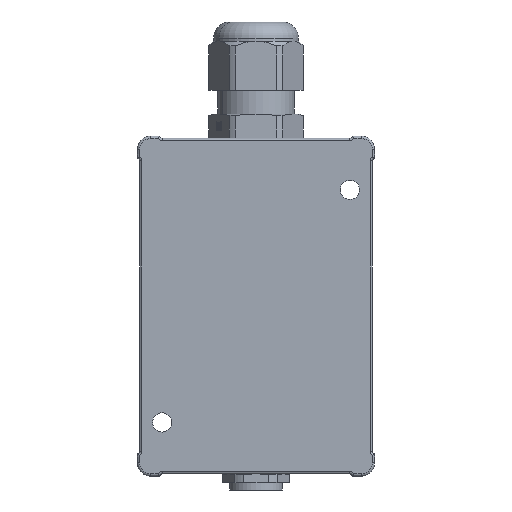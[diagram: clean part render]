
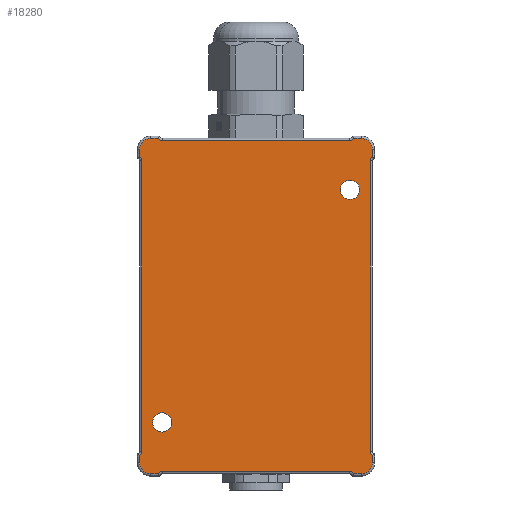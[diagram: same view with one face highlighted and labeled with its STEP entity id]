
A CAD part, front view. The second image highlights one B-rep face of the part: STEP entity #18280.
In plain terms, the highlighted planar face has unit normal (0, -1, 0).
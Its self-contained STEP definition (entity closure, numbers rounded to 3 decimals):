
#724=CARTESIAN_POINT('',(-21.866,-3.,-37.5));
#768=CARTESIAN_POINT('',(23.5,-3.,-35.));
#769=DIRECTION('',(0.,1.,0.));
#770=DIRECTION('',(1.,0.,0.));
#771=AXIS2_PLACEMENT_3D('',#768,#769,#770);
#776=DIRECTION('',(1.,0.,0.));
#777=VECTOR('',#776,1.634);
#778=CARTESIAN_POINT('',(21.866,-3.,-37.5));
#779=LINE('',#778,#777);
#783=CARTESIAN_POINT('',(21.,-3.,-38.));
#784=DIRECTION('',(0.,-1.,0.));
#785=DIRECTION('',(0.866,0.,0.5));
#786=AXIS2_PLACEMENT_3D('',#783,#784,#785);
#791=DIRECTION('',(-1.,0.,0.));
#792=VECTOR('',#791,42.);
#793=CARTESIAN_POINT('',(21.,-3.,-37.));
#794=LINE('',#793,#792);
#798=CARTESIAN_POINT('',(-21.,-3.,-38.));
#799=DIRECTION('',(0.,-1.,0.));
#800=DIRECTION('',(0.,0.,1.));
#801=AXIS2_PLACEMENT_3D('',#798,#799,#800);
#806=DIRECTION('',(1.,0.,0.));
#807=VECTOR('',#806,1.634);
#808=CARTESIAN_POINT('',(-23.5,-3.,-37.5));
#809=LINE('',#808,#807);
#813=CARTESIAN_POINT('',(-23.5,-3.,-35.));
#814=DIRECTION('',(0.,1.,0.));
#815=DIRECTION('',(0.,0.,-1.));
#816=AXIS2_PLACEMENT_3D('',#813,#814,#815);
#821=DIRECTION('',(0.,0.,-1.));
#822=VECTOR('',#821,1.634);
#823=CARTESIAN_POINT('',(-26.,-3.,-33.366));
#824=LINE('',#823,#822);
#828=CARTESIAN_POINT('',(-26.5,-3.,-32.5));
#829=DIRECTION('',(0.,-1.,0.));
#830=DIRECTION('',(0.5,0.,-0.866));
#831=AXIS2_PLACEMENT_3D('',#828,#829,#830);
#836=DIRECTION('',(0.,0.,1.));
#837=VECTOR('',#836,65.);
#838=CARTESIAN_POINT('',(-25.5,-3.,-32.5));
#839=LINE('',#838,#837);
#843=CARTESIAN_POINT('',(-26.5,-3.,32.5));
#844=DIRECTION('',(0.,-1.,0.));
#845=DIRECTION('',(1.,0.,0.));
#846=AXIS2_PLACEMENT_3D('',#843,#844,#845);
#851=DIRECTION('',(0.,0.,-1.));
#852=VECTOR('',#851,1.634);
#853=CARTESIAN_POINT('',(-26.,-3.,35.));
#854=LINE('',#853,#852);
#858=CARTESIAN_POINT('',(-23.5,-3.,35.));
#859=DIRECTION('',(0.,1.,0.));
#860=DIRECTION('',(-1.,0.,0.));
#861=AXIS2_PLACEMENT_3D('',#858,#859,#860);
#866=DIRECTION('',(-1.,0.,0.));
#867=VECTOR('',#866,1.634);
#868=CARTESIAN_POINT('',(-21.866,-3.,37.5));
#869=LINE('',#868,#867);
#873=CARTESIAN_POINT('',(-21.,-3.,38.));
#874=DIRECTION('',(0.,-1.,0.));
#875=DIRECTION('',(-0.866,0.,-0.5));
#876=AXIS2_PLACEMENT_3D('',#873,#874,#875);
#881=DIRECTION('',(1.,0.,0.));
#882=VECTOR('',#881,42.);
#883=CARTESIAN_POINT('',(-21.,-3.,37.));
#884=LINE('',#883,#882);
#888=CARTESIAN_POINT('',(21.,-3.,38.));
#889=DIRECTION('',(0.,-1.,0.));
#890=DIRECTION('',(0.,0.,-1.));
#891=AXIS2_PLACEMENT_3D('',#888,#889,#890);
#896=DIRECTION('',(-1.,0.,0.));
#897=VECTOR('',#896,1.634);
#898=CARTESIAN_POINT('',(23.5,-3.,37.5));
#899=LINE('',#898,#897);
#903=CARTESIAN_POINT('',(23.5,-3.,35.));
#904=DIRECTION('',(0.,1.,0.));
#905=DIRECTION('',(0.,0.,1.));
#906=AXIS2_PLACEMENT_3D('',#903,#904,#905);
#911=DIRECTION('',(0.,0.,1.));
#912=VECTOR('',#911,1.634);
#913=CARTESIAN_POINT('',(26.,-3.,33.366));
#914=LINE('',#913,#912);
#918=CARTESIAN_POINT('',(26.5,-3.,32.5));
#919=DIRECTION('',(0.,-1.,0.));
#920=DIRECTION('',(-0.5,0.,0.866));
#921=AXIS2_PLACEMENT_3D('',#918,#919,#920);
#926=DIRECTION('',(0.,0.,-1.));
#927=VECTOR('',#926,65.);
#928=CARTESIAN_POINT('',(25.5,-3.,32.5));
#929=LINE('',#928,#927);
#933=CARTESIAN_POINT('',(26.5,-3.,-32.5));
#934=DIRECTION('',(0.,-1.,0.));
#935=DIRECTION('',(-1.,0.,0.));
#936=AXIS2_PLACEMENT_3D('',#933,#934,#935);
#941=DIRECTION('',(0.,0.,1.));
#942=VECTOR('',#941,1.634);
#943=CARTESIAN_POINT('',(26.,-3.,-35.));
#944=LINE('',#943,#942);
#948=CARTESIAN_POINT('',(21.,-3.,26.));
#949=DIRECTION('',(0.,1.,0.));
#950=DIRECTION('',(1.,0.,0.));
#951=AXIS2_PLACEMENT_3D('',#948,#949,#950);
#956=CARTESIAN_POINT('',(21.,-3.,26.));
#957=DIRECTION('',(0.,1.,0.));
#958=DIRECTION('',(-1.,0.,0.));
#959=AXIS2_PLACEMENT_3D('',#956,#957,#958);
#964=CARTESIAN_POINT('',(-21.,-3.,-26.));
#965=DIRECTION('',(0.,1.,0.));
#966=DIRECTION('',(1.,0.,0.));
#967=AXIS2_PLACEMENT_3D('',#964,#965,#966);
#972=CARTESIAN_POINT('',(-21.,-3.,-26.));
#973=DIRECTION('',(0.,1.,0.));
#974=DIRECTION('',(-1.,0.,0.));
#975=AXIS2_PLACEMENT_3D('',#972,#973,#974);
#1314=CARTESIAN_POINT('',(26.,-3.,-33.366));
#1921=CARTESIAN_POINT('',(-21.866,-3.,37.5));
#2190=CARTESIAN_POINT('',(-26.,-3.,-33.366));
#15501=VERTEX_POINT('',#2190);
#15503=VERTEX_POINT('',#1921);
#15504=VERTEX_POINT('',#1314);
#15506=VERTEX_POINT('',#724);
#15509=CARTESIAN_POINT('',(23.5,-3.,-37.5));
#15511=VERTEX_POINT('',#15509);
#15512=CARTESIAN_POINT('',(26.,-3.,-35.));
#15513=VERTEX_POINT('',#15512);
#15516=CARTESIAN_POINT('',(-23.5,-3.,-37.5));
#15517=CARTESIAN_POINT('',(-26.,-3.,-35.));
#15518=VERTEX_POINT('',#15516);
#15519=VERTEX_POINT('',#15517);
#15523=CARTESIAN_POINT('',(26.,-3.,35.));
#15525=VERTEX_POINT('',#15523);
#15526=CARTESIAN_POINT('',(23.5,-3.,37.5));
#15527=VERTEX_POINT('',#15526);
#15531=CARTESIAN_POINT('',(-23.5,-3.,37.5));
#15533=VERTEX_POINT('',#15531);
#15534=CARTESIAN_POINT('',(-26.,-3.,35.));
#15535=VERTEX_POINT('',#15534);
#15536=CARTESIAN_POINT('',(26.,-3.,33.366));
#15537=VERTEX_POINT('',#15536);
#15540=CARTESIAN_POINT('',(21.866,-3.,-37.5));
#15541=VERTEX_POINT('',#15540);
#15550=CARTESIAN_POINT('',(-26.,-3.,33.366));
#15551=VERTEX_POINT('',#15550);
#15554=CARTESIAN_POINT('',(21.866,-3.,37.5));
#15555=VERTEX_POINT('',#15554);
#15558=CARTESIAN_POINT('',(21.,-3.,-37.));
#15559=VERTEX_POINT('',#15558);
#15562=CARTESIAN_POINT('',(-21.,-3.,-37.));
#15563=VERTEX_POINT('',#15562);
#15566=CARTESIAN_POINT('',(25.5,-3.,32.5));
#15567=VERTEX_POINT('',#15566);
#15570=CARTESIAN_POINT('',(25.5,-3.,-32.5));
#15571=VERTEX_POINT('',#15570);
#15574=CARTESIAN_POINT('',(-21.,-3.,37.));
#15575=VERTEX_POINT('',#15574);
#15578=CARTESIAN_POINT('',(21.,-3.,37.));
#15579=VERTEX_POINT('',#15578);
#15582=CARTESIAN_POINT('',(-25.5,-3.,-32.5));
#15583=VERTEX_POINT('',#15582);
#15586=CARTESIAN_POINT('',(-25.5,-3.,32.5));
#15587=VERTEX_POINT('',#15586);
#15640=CARTESIAN_POINT('',(-18.85,-3.,-26.));
#15641=CARTESIAN_POINT('',(-23.15,-3.,-26.));
#15642=VERTEX_POINT('',#15640);
#15643=VERTEX_POINT('',#15641);
#15648=CARTESIAN_POINT('',(23.15,-3.,26.));
#15649=CARTESIAN_POINT('',(18.85,-3.,26.));
#15650=VERTEX_POINT('',#15648);
#15651=VERTEX_POINT('',#15649);
#18218=CARTESIAN_POINT('',(0.,-3.,0.));
#18219=DIRECTION('',(0.,-1.,0.));
#18220=DIRECTION('',(1.,0.,0.));
#18221=AXIS2_PLACEMENT_3D('',#18218,#18219,#18220);
#18222=PLANE('',#18221);
#18224=ORIENTED_EDGE('',*,*,#18223,.T.);
#18226=ORIENTED_EDGE('',*,*,#18225,.F.);
#18227=ORIENTED_EDGE('',*,*,#18120,.T.);
#18228=ORIENTED_EDGE('',*,*,#18142,.T.);
#18229=ORIENTED_EDGE('',*,*,#18162,.T.);
#18230=ORIENTED_EDGE('',*,*,#18183,.F.);
#18231=ORIENTED_EDGE('',*,*,#18202,.T.);
#18233=ORIENTED_EDGE('',*,*,#18232,.F.);
#18235=ORIENTED_EDGE('',*,*,#18234,.T.);
#18237=ORIENTED_EDGE('',*,*,#18236,.T.);
#18239=ORIENTED_EDGE('',*,*,#18238,.T.);
#18241=ORIENTED_EDGE('',*,*,#18240,.F.);
#18243=ORIENTED_EDGE('',*,*,#18242,.T.);
#18245=ORIENTED_EDGE('',*,*,#18244,.F.);
#18247=ORIENTED_EDGE('',*,*,#18246,.T.);
#18249=ORIENTED_EDGE('',*,*,#18248,.T.);
#18251=ORIENTED_EDGE('',*,*,#18250,.T.);
#18253=ORIENTED_EDGE('',*,*,#18252,.F.);
#18255=ORIENTED_EDGE('',*,*,#18254,.T.);
#18257=ORIENTED_EDGE('',*,*,#18256,.F.);
#18259=ORIENTED_EDGE('',*,*,#18258,.T.);
#18261=ORIENTED_EDGE('',*,*,#18260,.T.);
#18263=ORIENTED_EDGE('',*,*,#18262,.T.);
#18265=ORIENTED_EDGE('',*,*,#18264,.F.);
#18266=EDGE_LOOP('',(#18224,#18226,#18227,#18228,#18229,#18230,#18231,#18233,
#18235,#18237,#18239,#18241,#18243,#18245,#18247,#18249,#18251,#18253,#18255,
#18257,#18259,#18261,#18263,#18265));
#18267=FACE_OUTER_BOUND('',#18266,.F.);
#18269=ORIENTED_EDGE('',*,*,#18268,.F.);
#18271=ORIENTED_EDGE('',*,*,#18270,.F.);
#18272=EDGE_LOOP('',(#18269,#18271));
#18273=FACE_BOUND('',#18272,.F.);
#18275=ORIENTED_EDGE('',*,*,#18274,.F.);
#18277=ORIENTED_EDGE('',*,*,#18276,.F.);
#18278=EDGE_LOOP('',(#18275,#18277));
#18279=FACE_BOUND('',#18278,.F.);
#772=CIRCLE('',#771,2.5);
#787=CIRCLE('',#786,1.);
#802=CIRCLE('',#801,1.);
#817=CIRCLE('',#816,2.5);
#832=CIRCLE('',#831,1.);
#847=CIRCLE('',#846,1.);
#862=CIRCLE('',#861,2.5);
#877=CIRCLE('',#876,1.);
#892=CIRCLE('',#891,1.);
#907=CIRCLE('',#906,2.5);
#922=CIRCLE('',#921,1.);
#937=CIRCLE('',#936,1.);
#952=CIRCLE('',#951,2.15);
#960=CIRCLE('',#959,2.15);
#968=CIRCLE('',#967,2.15);
#976=CIRCLE('',#975,2.15);
#18120=EDGE_CURVE('',#15541,#15559,#787,.T.);
#18142=EDGE_CURVE('',#15559,#15563,#794,.T.);
#18162=EDGE_CURVE('',#15563,#15506,#802,.T.);
#18183=EDGE_CURVE('',#15518,#15506,#809,.T.);
#18202=EDGE_CURVE('',#15518,#15519,#817,.T.);
#18223=EDGE_CURVE('',#15513,#15511,#772,.T.);
#18225=EDGE_CURVE('',#15541,#15511,#779,.T.);
#18232=EDGE_CURVE('',#15501,#15519,#824,.T.);
#18234=EDGE_CURVE('',#15501,#15583,#832,.T.);
#18236=EDGE_CURVE('',#15583,#15587,#839,.T.);
#18238=EDGE_CURVE('',#15587,#15551,#847,.T.);
#18240=EDGE_CURVE('',#15535,#15551,#854,.T.);
#18242=EDGE_CURVE('',#15535,#15533,#862,.T.);
#18244=EDGE_CURVE('',#15503,#15533,#869,.T.);
#18246=EDGE_CURVE('',#15503,#15575,#877,.T.);
#18248=EDGE_CURVE('',#15575,#15579,#884,.T.);
#18250=EDGE_CURVE('',#15579,#15555,#892,.T.);
#18252=EDGE_CURVE('',#15527,#15555,#899,.T.);
#18254=EDGE_CURVE('',#15527,#15525,#907,.T.);
#18256=EDGE_CURVE('',#15537,#15525,#914,.T.);
#18258=EDGE_CURVE('',#15537,#15567,#922,.T.);
#18260=EDGE_CURVE('',#15567,#15571,#929,.T.);
#18262=EDGE_CURVE('',#15571,#15504,#937,.T.);
#18264=EDGE_CURVE('',#15513,#15504,#944,.T.);
#18268=EDGE_CURVE('',#15650,#15651,#952,.T.);
#18270=EDGE_CURVE('',#15651,#15650,#960,.T.);
#18274=EDGE_CURVE('',#15642,#15643,#968,.T.);
#18276=EDGE_CURVE('',#15643,#15642,#976,.T.);
#18280=ADVANCED_FACE('',(#18267,#18273,#18279),#18222,.T.);
